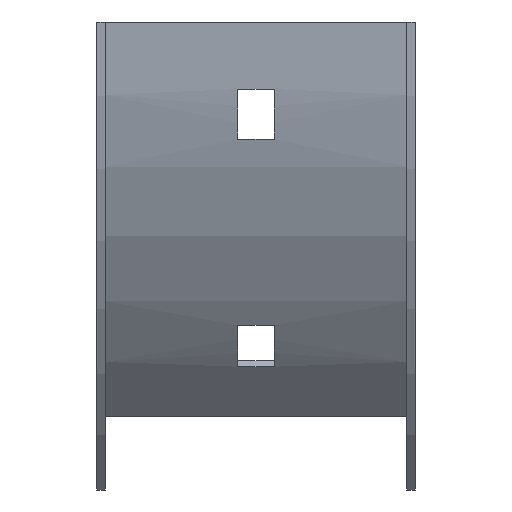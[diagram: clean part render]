
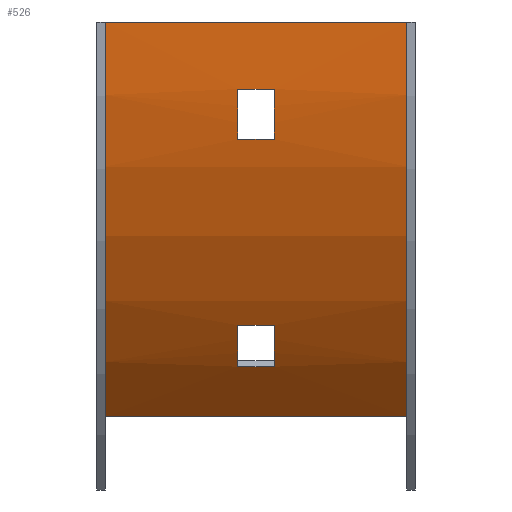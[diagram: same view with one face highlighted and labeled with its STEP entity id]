
A CAD part, front view. The second image highlights one B-rep face of the part: STEP entity #526.
In plain terms, the highlighted cylindrical face has radius 100 mm (diameter 200 mm), a partial arc.
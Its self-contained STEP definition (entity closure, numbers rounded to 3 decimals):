
#12 = CARTESIAN_POINT ( 'NONE',  ( -27., 98.5, 0. ) ) ;
#14 = DIRECTION ( 'NONE',  ( -1., 0., 0. ) ) ;
#17 = CARTESIAN_POINT ( 'NONE',  ( 3.25, 14.517, -54.285 ) ) ;
#28 = CIRCLE ( 'NONE', #452, 100. ) ;
#42 = VERTEX_POINT ( 'NONE', #79 ) ;
#43 = FACE_BOUND ( 'NONE', #269, .T. ) ;
#44 = LINE ( 'NONE', #501, #294 ) ;
#45 = VERTEX_POINT ( 'NONE', #17 ) ;
#46 = DIRECTION ( 'NONE',  ( 0., 0., 1. ) ) ;
#51 = CARTESIAN_POINT ( 'NONE',  ( -3.25, -0.777, -12. ) ) ;
#60 = ORIENTED_EDGE ( 'NONE', *, *, #102, .T. ) ;
#66 = DIRECTION ( 'NONE',  ( 0., 0., 1. ) ) ;
#68 = CARTESIAN_POINT ( 'NONE',  ( 28.5, 19.815, -61.714 ) ) ;
#70 = LINE ( 'NONE', #119, #163 ) ;
#71 = CIRCLE ( 'NONE', #481, 100. ) ;
#72 = VERTEX_POINT ( 'NONE', #497 ) ;
#74 = DIRECTION ( 'NONE',  ( 1., 0., 0. ) ) ;
#78 = CARTESIAN_POINT ( 'NONE',  ( -27., -1.5, 0. ) ) ;
#79 = CARTESIAN_POINT ( 'NONE',  ( 3.25, 0.73, -21. ) ) ;
#88 = DIRECTION ( 'NONE',  ( -1., 0., 0. ) ) ;
#95 = EDGE_CURVE ( 'NONE', #211, #577, #70, .T. ) ;
#96 = LINE ( 'NONE', #268, #512 ) ;
#98 = ORIENTED_EDGE ( 'NONE', *, *, #335, .F. ) ;
#100 = VECTOR ( 'NONE', #535, 1000. ) ;
#101 = ORIENTED_EDGE ( 'NONE', *, *, #111, .F. ) ;
#102 = EDGE_CURVE ( 'NONE', #558, #253, #127, .T. ) ;
#105 = CARTESIAN_POINT ( 'NONE',  ( -3.25, 19.815, -61.714 ) ) ;
#111 = EDGE_CURVE ( 'NONE', #607, #42, #212, .T. ) ;
#119 = CARTESIAN_POINT ( 'NONE',  ( 28.5, -0.777, -12. ) ) ;
#123 = DIRECTION ( 'NONE',  ( 0., 0., -1. ) ) ;
#127 = CIRCLE ( 'NONE', #371, 100. ) ;
#129 = DIRECTION ( 'NONE',  ( 0., 0., 1. ) ) ;
#133 = VERTEX_POINT ( 'NONE', #78 ) ;
#137 = EDGE_CURVE ( 'NONE', #467, #334, #313, .T. ) ;
#151 = AXIS2_PLACEMENT_3D ( 'NONE', #181, #325, #46 ) ;
#154 = ORIENTED_EDGE ( 'NONE', *, *, #184, .T. ) ;
#159 = EDGE_CURVE ( 'NONE', #558, #72, #96, .T. ) ;
#163 = VECTOR ( 'NONE', #352, 1000. ) ;
#165 = AXIS2_PLACEMENT_3D ( 'NONE', #232, #545, #129 ) ;
#173 = VECTOR ( 'NONE', #74, 1000. ) ;
#176 = FACE_BOUND ( 'NONE', #485, .T. ) ;
#181 = CARTESIAN_POINT ( 'NONE',  ( 3.25, 98.5, 0. ) ) ;
#184 = EDGE_CURVE ( 'NONE', #264, #45, #44, .T. ) ;
#188 = ORIENTED_EDGE ( 'NONE', *, *, #318, .T. ) ;
#192 = DIRECTION ( 'NONE',  ( 1., 0., 0. ) ) ;
#211 = VERTEX_POINT ( 'NONE', #424 ) ;
#212 = LINE ( 'NONE', #215, #173 ) ;
#215 = CARTESIAN_POINT ( 'NONE',  ( 28.5, 0.73, -21. ) ) ;
#232 = CARTESIAN_POINT ( 'NONE',  ( 28.5, 98.5, 0. ) ) ;
#237 = ORIENTED_EDGE ( 'NONE', *, *, #95, .F. ) ;
#240 = ORIENTED_EDGE ( 'NONE', *, *, #488, .F. ) ;
#247 = DIRECTION ( 'NONE',  ( 0., 0., 1. ) ) ;
#249 = LINE ( 'NONE', #345, #100 ) ;
#251 = CARTESIAN_POINT ( 'NONE',  ( 27., 98.5, 0. ) ) ;
#253 = VERTEX_POINT ( 'NONE', #320 ) ;
#263 = AXIS2_PLACEMENT_3D ( 'NONE', #479, #192, #247 ) ;
#264 = VERTEX_POINT ( 'NONE', #511 ) ;
#268 = CARTESIAN_POINT ( 'NONE',  ( 27., 27.789, -70.711 ) ) ;
#269 = EDGE_LOOP ( 'NONE', ( #98, #237, #240, #101 ) ) ;
#279 = ORIENTED_EDGE ( 'NONE', *, *, #308, .F. ) ;
#294 = VECTOR ( 'NONE', #420, 1000. ) ;
#295 = DIRECTION ( 'NONE',  ( -1., 0., 0. ) ) ;
#300 = EDGE_LOOP ( 'NONE', ( #279, #396, #60, #463 ) ) ;
#308 = EDGE_CURVE ( 'NONE', #72, #133, #71, .T. ) ;
#313 = LINE ( 'NONE', #68, #544 ) ;
#318 = EDGE_CURVE ( 'NONE', #334, #264, #28, .T. ) ;
#320 = CARTESIAN_POINT ( 'NONE',  ( 27., -1.5, 0. ) ) ;
#325 = DIRECTION ( 'NONE',  ( 1., 0., 0. ) ) ;
#334 = VERTEX_POINT ( 'NONE', #105 ) ;
#335 = EDGE_CURVE ( 'NONE', #577, #607, #528, .T. ) ;
#336 = CARTESIAN_POINT ( 'NONE',  ( 27., 27.789, -70.711 ) ) ;
#338 = DIRECTION ( 'NONE',  ( 0., 0., -1. ) ) ;
#345 = CARTESIAN_POINT ( 'NONE',  ( 27., -1.5, 0. ) ) ;
#352 = DIRECTION ( 'NONE',  ( -1., 0., 0. ) ) ;
#360 = CYLINDRICAL_SURFACE ( 'NONE', #165, 100. ) ;
#363 = CARTESIAN_POINT ( 'NONE',  ( 3.25, 19.815, -61.714 ) ) ;
#371 = AXIS2_PLACEMENT_3D ( 'NONE', #251, #445, #491 ) ;
#396 = ORIENTED_EDGE ( 'NONE', *, *, #159, .F. ) ;
#397 = EDGE_CURVE ( 'NONE', #253, #133, #249, .T. ) ;
#404 = DIRECTION ( 'NONE',  ( -1., 0., 0. ) ) ;
#420 = DIRECTION ( 'NONE',  ( 1., 0., 0. ) ) ;
#424 = CARTESIAN_POINT ( 'NONE',  ( 3.25, -0.777, -12. ) ) ;
#445 = DIRECTION ( 'NONE',  ( -1., 0., 0. ) ) ;
#452 = AXIS2_PLACEMENT_3D ( 'NONE', #523, #14, #338 ) ;
#459 = ORIENTED_EDGE ( 'NONE', *, *, #532, .T. ) ;
#463 = ORIENTED_EDGE ( 'NONE', *, *, #397, .T. ) ;
#467 = VERTEX_POINT ( 'NONE', #363 ) ;
#479 = CARTESIAN_POINT ( 'NONE',  ( -3.25, 98.5, 0. ) ) ;
#481 = AXIS2_PLACEMENT_3D ( 'NONE', #12, #295, #66 ) ;
#485 = EDGE_LOOP ( 'NONE', ( #598, #188, #154, #459 ) ) ;
#488 = EDGE_CURVE ( 'NONE', #42, #211, #529, .T. ) ;
#491 = DIRECTION ( 'NONE',  ( 0., 0., 1. ) ) ;
#497 = CARTESIAN_POINT ( 'NONE',  ( -27., 27.789, -70.711 ) ) ;
#500 = CIRCLE ( 'NONE', #151, 100. ) ;
#501 = CARTESIAN_POINT ( 'NONE',  ( 28.5, 14.517, -54.285 ) ) ;
#503 = FACE_OUTER_BOUND ( 'NONE', #300, .T. ) ;
#504 = DIRECTION ( 'NONE',  ( -1., 0., 0. ) ) ;
#511 = CARTESIAN_POINT ( 'NONE',  ( -3.25, 14.517, -54.285 ) ) ;
#512 = VECTOR ( 'NONE', #504, 1000. ) ;
#523 = CARTESIAN_POINT ( 'NONE',  ( -3.25, 98.5, 0. ) ) ;
#526 = ADVANCED_FACE ( 'NONE', ( #43, #503, #176 ), #360, .T. ) ;
#528 = CIRCLE ( 'NONE', #263, 100. ) ;
#529 = CIRCLE ( 'NONE', #606, 100. ) ;
#532 = EDGE_CURVE ( 'NONE', #45, #467, #500, .T. ) ;
#535 = DIRECTION ( 'NONE',  ( -1., 0., 0. ) ) ;
#544 = VECTOR ( 'NONE', #404, 1000. ) ;
#545 = DIRECTION ( 'NONE',  ( -1., 0., 0. ) ) ;
#558 = VERTEX_POINT ( 'NONE', #336 ) ;
#559 = CARTESIAN_POINT ( 'NONE',  ( -3.25, 0.73, -21. ) ) ;
#577 = VERTEX_POINT ( 'NONE', #51 ) ;
#591 = CARTESIAN_POINT ( 'NONE',  ( 3.25, 98.5, 0. ) ) ;
#598 = ORIENTED_EDGE ( 'NONE', *, *, #137, .T. ) ;
#606 = AXIS2_PLACEMENT_3D ( 'NONE', #591, #88, #123 ) ;
#607 = VERTEX_POINT ( 'NONE', #559 ) ;
